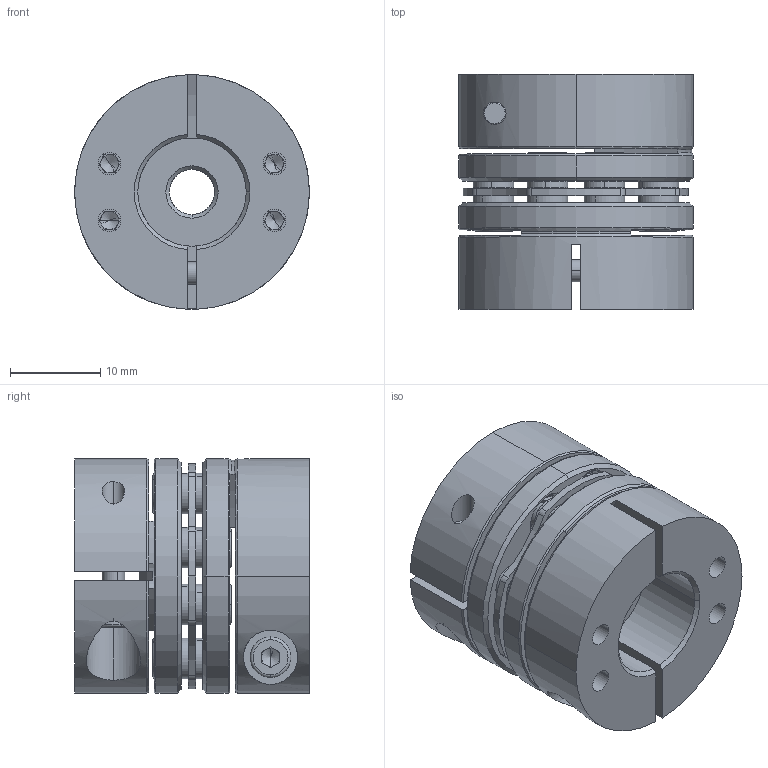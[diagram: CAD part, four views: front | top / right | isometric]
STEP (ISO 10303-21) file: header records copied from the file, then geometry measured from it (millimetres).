
FILE_DESCRIPTION (( 'STEP AP203' ), '1' );
FILE_NAME ('LDG-D26-5-12.STEP', '2021-10-28T03:24:00', ( '' ), ( '' ), 'SwSTEP 2.0', 'SolidWorks 2018', '' );
FILE_SCHEMA (( 'CONFIG_CONTROL_DESIGN' ));
Length unit declared in the file: millimetre
Products named in the file (2): LDG-D26-5-12; 錨璃2^LDG-D26蚾饜芞1
Assembly tree (1 placements, depth 2):
  LDG-D26-5-12
    錨璃2^LDG-D26蚾饜芞1
Bounding box: 26 x 26 x 26 mm (x, y, z)
Volume: 9776.6 mm3; surface area: 8944.3 mm2
Topology: 1 solids, 21 shells, 765 faces, 1872 edges, 1159 vertices
Faces by surface type: cylinder 301, plane 244, cone 200, torus 20
Entity records: 23059 total; most frequent: DIRECTION 4281, CARTESIAN_POINT 4166, ORIENTED_EDGE 3688, EDGE_CURVE 1844, AXIS2_PLACEMENT_3D 1740, VERTEX_POINT 1159, CIRCLE 971, EDGE_LOOP 909
